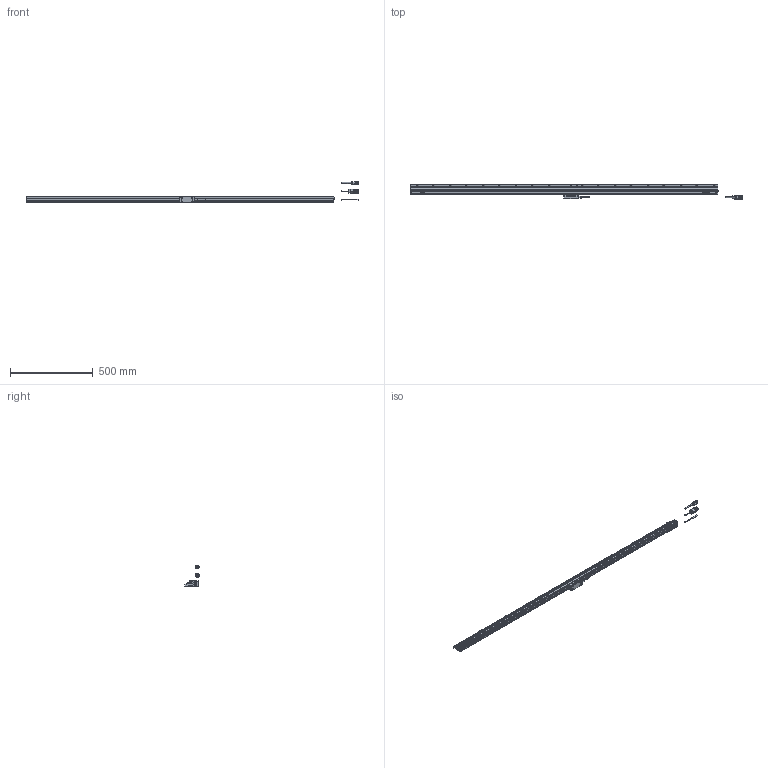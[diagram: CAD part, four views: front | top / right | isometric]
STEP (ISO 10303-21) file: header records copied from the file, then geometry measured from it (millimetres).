
FILE_DESCRIPTION(('Creo Elements/Direct Modeling STEP Export'),'2;1');
FILE_NAME('AT402E-1740.stp','2018-02-21T13:14:40',(''),(''),'Creo Elements/Direct Modeling STEP processor for AP214 (Solid Model)','Creo Elements/Direct Modeling 18.1B 29-Sep-2012 (C) Parametric Technology GmbH','');
FILE_SCHEMA(('AUTOMOTIVE_DESIGN { 1 0 10303 214 1 1 1 1 }'));
Length unit declared in the file: millimetre
Products named in the file (6): Scale_1740; Connector_typeA; Connector_typeB; Detector_Head; Connector_typeC; AT402E-1740
Assembly tree (5 placements, depth 2):
  AT402E-1740
    Connector_typeC
    Detector_Head
    Connector_typeB
    Connector_typeA
    Scale_1740
Bounding box: 2009.57 x 90 x 130.25 mm (x, y, z)
Volume: 3098962 mm3; surface area: 401819.3 mm2
Topology: 5 solids, 5 shells, 1483 faces, 4417 edges, 2984 vertices
Faces by surface type: plane 830, cylinder 519, torus 50, bspline 46, cone 26, sphere 12
Entity records: 55277 total; most frequent: CARTESIAN_POINT 15830, ORIENTED_EDGE 8834, DIRECTION 7675, EDGE_CURVE 4417, VERTEX_POINT 2984, VECTOR 2589, LINE 2589, AXIS2_PLACEMENT_3D 2543
